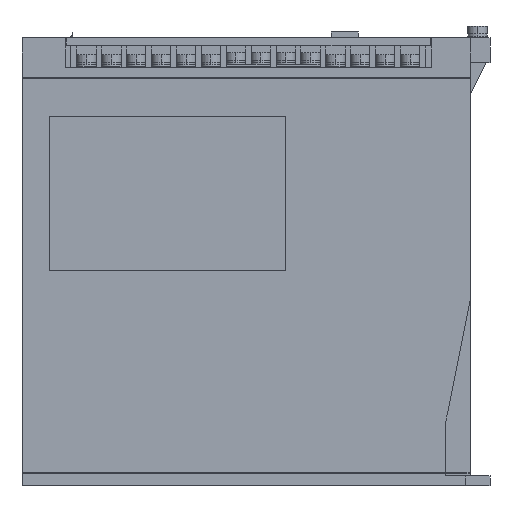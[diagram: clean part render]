
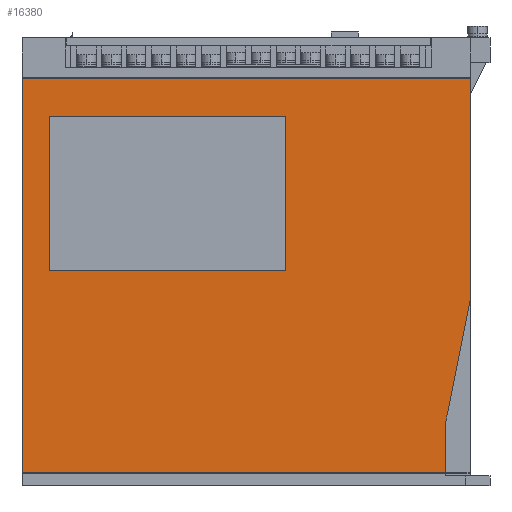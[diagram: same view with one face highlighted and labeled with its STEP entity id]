
A CAD part, left-side view. The second image highlights one B-rep face of the part: STEP entity #16380.
In plain terms, the highlighted planar face has unit normal (-1, 0, 0).
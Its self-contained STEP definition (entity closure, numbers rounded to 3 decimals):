
#11130 = CARTESIAN_POINT ( 'NONE',  ( -95., -175., 163.8 ) ) ;
#11131 = DIRECTION ( 'NONE',  ( 0., -1., 0. ) ) ;
#11132 = VECTOR ( 'NONE', #11131, 1000. ) ;
#11133 = CARTESIAN_POINT ( 'NONE',  ( -95., 5., 163.8 ) ) ;
#11134 = LINE ( 'NONE', #11133, #11132 ) ;
#11135 = CARTESIAN_POINT ( 'NONE',  ( -95., 5., 163.8 ) ) ;
#15707 = VERTEX_POINT ( 'NONE', #38600 ) ;
#15808 = EDGE_CURVE ( 'NONE', #36323, #15707, #38781, .T. ) ;
#15982 = VERTEX_POINT ( 'NONE', #39031 ) ;
#16023 = EDGE_CURVE ( 'NONE', #36320, #15982, #39087, .T. ) ;
#16301 = VERTEX_POINT ( 'NONE', #39513 ) ;
#16320 = ORIENTED_EDGE ( 'NONE', *, *, #16321, .F. ) ;
#16321 = EDGE_CURVE ( 'NONE', #16364, #16301, #39550, .T. ) ;
#16329 = VERTEX_POINT ( 'NONE', #39533 ) ;
#16337 = ORIENTED_EDGE ( 'NONE', *, *, #16338, .F. ) ;
#16338 = EDGE_CURVE ( 'NONE', #16301, #16329, #39590, .T. ) ;
#16340 = ORIENTED_EDGE ( 'NONE', *, *, #16373, .F. ) ;
#16352 = EDGE_LOOP ( 'NONE', ( #16340, #16367, #16337, #16320 ) ) ;
#16363 = VERTEX_POINT ( 'NONE', #39622 ) ;
#16364 = VERTEX_POINT ( 'NONE', #39621 ) ;
#16365 = EDGE_CURVE ( 'NONE', #16329, #16363, #39620, .T. ) ;
#16367 = ORIENTED_EDGE ( 'NONE', *, *, #16365, .F. ) ;
#16373 = EDGE_CURVE ( 'NONE', #16363, #16364, #39606, .T. ) ;
#16380 = ADVANCED_FACE ( 'NONE', ( #39597, #39596 ), #39345, .F. ) ;
#16419 = ORIENTED_EDGE ( 'NONE', *, *, #16452, .F. ) ;
#16432 = VERTEX_POINT ( 'NONE', #39721 ) ;
#16451 = VERTEX_POINT ( 'NONE', #39695 ) ;
#16452 = EDGE_CURVE ( 'NONE', #16451, #16432, #39694, .T. ) ;
#16455 = ORIENTED_EDGE ( 'NONE', *, *, #16456, .T. ) ;
#16456 = EDGE_CURVE ( 'NONE', #16451, #15707, #39748, .T. ) ;
#16458 = ORIENTED_EDGE ( 'NONE', *, *, #16461, .T. ) ;
#16461 = EDGE_CURVE ( 'NONE', #15982, #16432, #39739, .T. ) ;
#16503 = ORIENTED_EDGE ( 'NONE', *, *, #16023, .T. ) ;
#16505 = ORIENTED_EDGE ( 'NONE', *, *, #15808, .F. ) ;
#16506 = ORIENTED_EDGE ( 'NONE', *, *, #36322, .F. ) ;
#16748 = EDGE_LOOP ( 'NONE', ( #16458, #16419, #16455, #16505, #16506, #16503 ) ) ;
#36320 = VERTEX_POINT ( 'NONE', #11135 ) ;
#36322 = EDGE_CURVE ( 'NONE', #36320, #36323, #11134, .T. ) ;
#36323 = VERTEX_POINT ( 'NONE', #11130 ) ;
#38292 = CARTESIAN_POINT ( 'NONE',  ( -95., 5., 369.913 ) ) ;
#38600 = CARTESIAN_POINT ( 'NONE',  ( -95., -175., 74.4 ) ) ;
#38778 = DIRECTION ( 'NONE',  ( 0., 0., -1. ) ) ;
#38779 = VECTOR ( 'NONE', #38778, 1000. ) ;
#38780 = CARTESIAN_POINT ( 'NONE',  ( -95., -175., 369.913 ) ) ;
#38781 = LINE ( 'NONE', #38780, #38779 ) ;
#39031 = CARTESIAN_POINT ( 'NONE',  ( -95., 5., 5.2 ) ) ;
#39084 = DIRECTION ( 'NONE',  ( 0., 0., -1. ) ) ;
#39085 = VECTOR ( 'NONE', #39084, 1000. ) ;
#39086 = CARTESIAN_POINT ( 'NONE',  ( -95., 5., 369.913 ) ) ;
#39087 = LINE ( 'NONE', #39086, #39085 ) ;
#39340 = AXIS2_PLACEMENT_3D ( 'NONE', #38292, #39656, #39655 ) ;
#39345 = PLANE ( 'NONE',  #39340 ) ;
#39513 = CARTESIAN_POINT ( 'NONE',  ( -95., -101., 148.5 ) ) ;
#39533 = CARTESIAN_POINT ( 'NONE',  ( -95., -6., 148.5 ) ) ;
#39547 = DIRECTION ( 'NONE',  ( 0., 0., 1. ) ) ;
#39548 = VECTOR ( 'NONE', #39547, 1000. ) ;
#39549 = CARTESIAN_POINT ( 'NONE',  ( -95., -101., 86.5 ) ) ;
#39550 = LINE ( 'NONE', #39549, #39548 ) ;
#39587 = DIRECTION ( 'NONE',  ( 0., 1., 0. ) ) ;
#39588 = VECTOR ( 'NONE', #39587, 1000. ) ;
#39589 = CARTESIAN_POINT ( 'NONE',  ( -95., -6., 148.5 ) ) ;
#39590 = LINE ( 'NONE', #39589, #39588 ) ;
#39596 = FACE_OUTER_BOUND ( 'NONE', #16748, .T. ) ;
#39597 = FACE_BOUND ( 'NONE', #16352, .T. ) ;
#39603 = DIRECTION ( 'NONE',  ( 0., -1., 0. ) ) ;
#39604 = VECTOR ( 'NONE', #39603, 1000. ) ;
#39605 = CARTESIAN_POINT ( 'NONE',  ( -95., -6., 86.5 ) ) ;
#39606 = LINE ( 'NONE', #39605, #39604 ) ;
#39617 = DIRECTION ( 'NONE',  ( 0., 0., -1. ) ) ;
#39618 = VECTOR ( 'NONE', #39617, 1000. ) ;
#39619 = CARTESIAN_POINT ( 'NONE',  ( -95., -6., 86.5 ) ) ;
#39620 = LINE ( 'NONE', #39619, #39618 ) ;
#39621 = CARTESIAN_POINT ( 'NONE',  ( -95., -101., 86.5 ) ) ;
#39622 = CARTESIAN_POINT ( 'NONE',  ( -95., -6., 86.5 ) ) ;
#39655 = DIRECTION ( 'NONE',  ( 0., 0., -1. ) ) ;
#39656 = DIRECTION ( 'NONE',  ( 1., 0., 0. ) ) ;
#39691 = DIRECTION ( 'NONE',  ( 0., 0., -1. ) ) ;
#39692 = VECTOR ( 'NONE', #39691, 1000. ) ;
#39693 = CARTESIAN_POINT ( 'NONE',  ( -95., -165., 24.4 ) ) ;
#39694 = LINE ( 'NONE', #39693, #39692 ) ;
#39695 = CARTESIAN_POINT ( 'NONE',  ( -95., -165., 24.4 ) ) ;
#39721 = CARTESIAN_POINT ( 'NONE',  ( -95., -165., 5.2 ) ) ;
#39736 = DIRECTION ( 'NONE',  ( 0., -1., 0. ) ) ;
#39737 = VECTOR ( 'NONE', #39736, 1000. ) ;
#39738 = CARTESIAN_POINT ( 'NONE',  ( -95., 5., 5.2 ) ) ;
#39739 = LINE ( 'NONE', #39738, #39737 ) ;
#39745 = DIRECTION ( 'NONE',  ( 0., -0.196, 0.981 ) ) ;
#39746 = VECTOR ( 'NONE', #39745, 1000. ) ;
#39747 = CARTESIAN_POINT ( 'NONE',  ( -95., -165., 24.4 ) ) ;
#39748 = LINE ( 'NONE', #39747, #39746 ) ;
